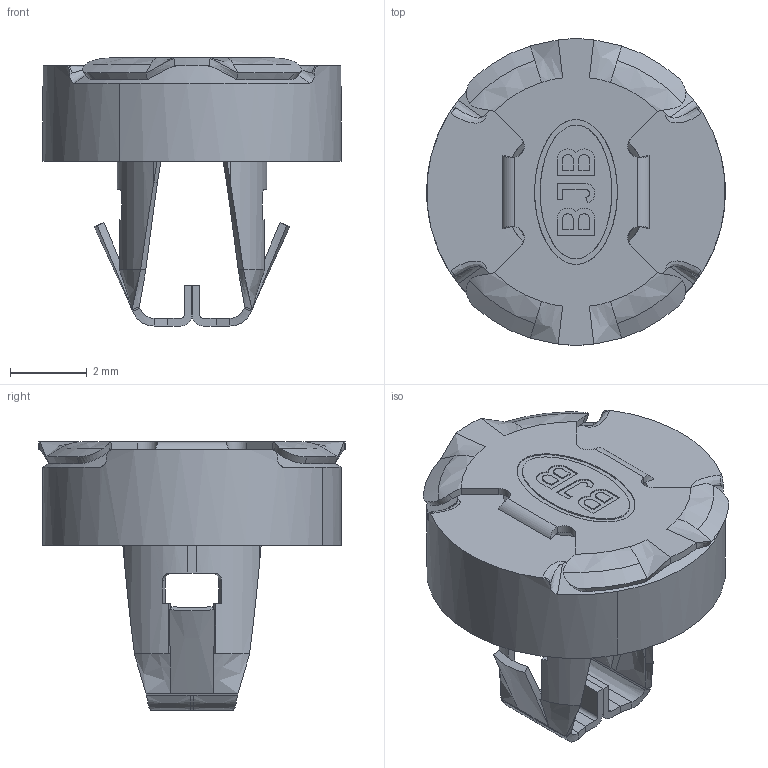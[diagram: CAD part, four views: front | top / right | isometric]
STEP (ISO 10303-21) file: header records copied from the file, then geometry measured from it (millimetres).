
FILE_DESCRIPTION((' '),'1');
FILE_NAME('01VY70XY07.stp','2013-10-11 T07:50:36',(''),(''),'STEP Interface 2013.192 by CT CoreTechnologie','3D_Evolution2013.192 by CT CoreTechnologie','');
FILE_SCHEMA(('AP203_CONFIGURATION_CONTROLLED_3D_DESIGN_OF_MECHANICAL_PARTS_AND_ASSEMBLIES_MIM_LF'));
Length unit declared in the file: millimetre
Products named in the file (1): 01VY70XY07
Bounding box: 7.8 x 7.99 x 7 mm (x, y, z)
Volume: 103.3 mm3; surface area: 286.1 mm2
Topology: 1 solids, 1 shells, 287 faces, 768 edges, 481 vertices
Faces by surface type: plane 136, bspline 104, cylinder 47
Entity records: 14620 total; most frequent: CARTESIAN_POINT 5345, ORIENTED_EDGE 1536, DIRECTION 1340, EDGE_CURVE 768, VECTOR 524, LINE 524, VERTEX_POINT 481, AXIS2_PLACEMENT_3D 408
